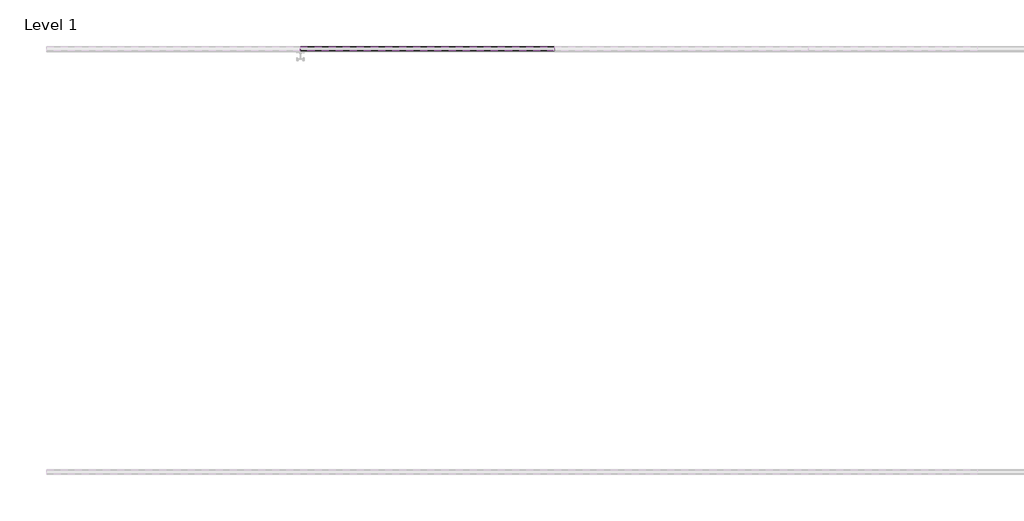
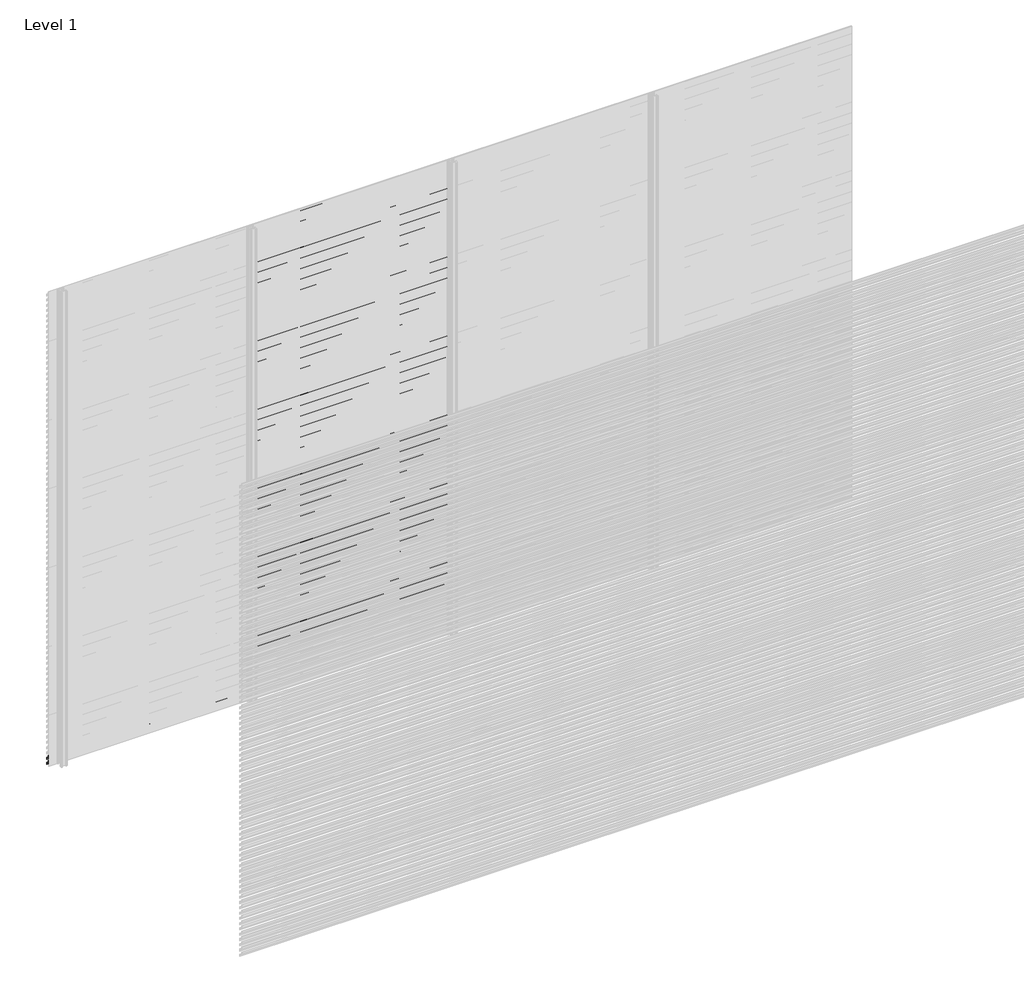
# One storey, part 32 of 507: 84 proxies.
"""IFC4 building model written with IfcOpenShell, lengths in millimetres."""

from ifc_helpers import new_model, si_unit, frame, origin, place, context, project, spatial, polyline, outline, extrude, element, save

model = new_model("IFC4")

# Units and contexts
model_context = context("Model", 3, world=origin())
ifc_project = project(units=[si_unit("LENGTHUNIT", "METRE", prefix="MILLI")], contexts=[model_context])

# Site, building, storey
site = spatial("IfcSite", under=ifc_project)
building = spatial("IfcBuilding", under=site)
storey = spatial("IfcBuildingStorey", under=building, Name="Level 1", Elevation=0.0)

# Proxies
placement = place(None, origin())
element("IfcBuildingElementProxy", 1, Name="Wall Sweeps", at=placement, inside=storey, context=model_context, shape_type="SweptSolid", body=[
    extrude(outline(polyline([(21503.4540136, 42.6), (21503.4540136, 29.1), (21502.2040136, 29.8216933), (21502.2040136, 41.8782281), (21483.0540136, 52.9345698), (21483.0540136, 66.6), (21484.3040136, 66.6), (21484.3040136, 53.6562577), (21503.4540136, 42.6)])), frame((44966.6208097, 0.0, 0.0), z_axis=(1.0, 0.0, 0.0), x_axis=(0.0, 1.0, 0.0)), (0.0, 0.0, 1.0), 1200.0000002),
])
element("IfcBuildingElementProxy", 2, Name="Wall Sweeps", at=placement, inside=storey, context=model_context, shape_type="SweptSolid", body=[
    extrude(outline(polyline([(21503.4540136, 9.3), (21503.4540136, -4.2), (21502.2040136, -3.4783067), (21502.2040136, 8.5782281), (21483.0540136, 19.6345698), (21483.0540136, 33.3), (21484.3040136, 33.3), (21484.3040136, 20.3562577), (21503.4540136, 9.3)])), frame((44966.6208097, 0.0, 0.0), z_axis=(1.0, 0.0, 0.0), x_axis=(0.0, 1.0, 0.0)), (0.0, 0.0, 1.0), 1200.0000002),
])
element("IfcBuildingElementProxy", 3, Name="Wall Sweeps", at=placement, inside=storey, context=model_context, shape_type="SweptSolid", body=[
    extrude(outline(polyline([(21503.4540136, 2973.0), (21503.4540136, 2959.5), (21502.2040136, 2960.2216933), (21502.2040136, 2972.2782281), (21483.0540136, 2983.3345698), (21483.0540136, 2997.0), (21484.3040136, 2997.0), (21484.3040136, 2984.0562577), (21503.4540136, 2973.0)])), frame((46166.6208099, 0.0, 0.0), z_axis=(1.0, 0.0, 0.0), x_axis=(0.0, 1.0, 0.0)), (0.0, 0.0, 1.0), 1199.9999999),
])
element("IfcBuildingElementProxy", 4, Name="Wall Sweeps", at=placement, inside=storey, context=model_context, shape_type="SweptSolid", body=[
    extrude(outline(polyline([(21503.4540136, 2939.7), (21503.4540136, 2926.2), (21502.2040136, 2926.9216933), (21502.2040136, 2938.9782281), (21483.0540136, 2950.0345698), (21483.0540136, 2963.7), (21484.3040136, 2963.7), (21484.3040136, 2950.7562577), (21503.4540136, 2939.7)])), frame((46166.6208099, 0.0, 0.0), z_axis=(1.0, 0.0, 0.0), x_axis=(0.0, 1.0, 0.0)), (0.0, 0.0, 1.0), 1199.9999999),
])
element("IfcBuildingElementProxy", 5, Name="Wall Sweeps", at=placement, inside=storey, context=model_context, shape_type="SweptSolid", body=[
    extrude(outline(polyline([(21503.4540136, 2906.4), (21503.4540136, 2892.9), (21502.2040136, 2893.6216933), (21502.2040136, 2905.6782281), (21483.0540136, 2916.7345698), (21483.0540136, 2930.4), (21484.3040136, 2930.4), (21484.3040136, 2917.4562577), (21503.4540136, 2906.4)])), frame((46166.6208099, 0.0, 0.0), z_axis=(1.0, 0.0, 0.0), x_axis=(0.0, 1.0, 0.0)), (0.0, 0.0, 1.0), 1199.9999999),
])
element("IfcBuildingElementProxy", 6, Name="Wall Sweeps", at=placement, inside=storey, context=model_context, shape_type="SweptSolid", body=[
    extrude(outline(polyline([(21503.4540136, 2873.1), (21503.4540136, 2859.6), (21502.2040136, 2860.3216933), (21502.2040136, 2872.3782281), (21483.0540136, 2883.4345698), (21483.0540136, 2897.1), (21484.3040136, 2897.1), (21484.3040136, 2884.1562577), (21503.4540136, 2873.1)])), frame((46166.6208099, 0.0, 0.0), z_axis=(1.0, 0.0, 0.0), x_axis=(0.0, 1.0, 0.0)), (0.0, 0.0, 1.0), 1199.9999999),
])
element("IfcBuildingElementProxy", 7, Name="Wall Sweeps", at=placement, inside=storey, context=model_context, shape_type="SweptSolid", body=[
    extrude(outline(polyline([(21503.4540136, 2839.8), (21503.4540136, 2826.3), (21502.2040136, 2827.0216933), (21502.2040136, 2839.0782281), (21483.0540136, 2850.1345698), (21483.0540136, 2863.8), (21484.3040136, 2863.8), (21484.3040136, 2850.8562577), (21503.4540136, 2839.8)])), frame((46166.6208099, 0.0, 0.0), z_axis=(1.0, 0.0, 0.0), x_axis=(0.0, 1.0, 0.0)), (0.0, 0.0, 1.0), 1199.9999999),
])
element("IfcBuildingElementProxy", 8, Name="Wall Sweeps", at=placement, inside=storey, context=model_context, shape_type="SweptSolid", body=[
    extrude(outline(polyline([(21503.4540136, 2806.5), (21503.4540136, 2793.0), (21502.2040136, 2793.7216933), (21502.2040136, 2805.7782281), (21483.0540136, 2816.8345698), (21483.0540136, 2830.5), (21484.3040136, 2830.5), (21484.3040136, 2817.5562577), (21503.4540136, 2806.5)])), frame((46166.6208099, 0.0, 0.0), z_axis=(1.0, 0.0, 0.0), x_axis=(0.0, 1.0, 0.0)), (0.0, 0.0, 1.0), 1199.9999999),
])
element("IfcBuildingElementProxy", 9, Name="Wall Sweeps", at=placement, inside=storey, context=model_context, shape_type="SweptSolid", body=[
    extrude(outline(polyline([(21503.4540136, 2773.2), (21503.4540136, 2759.7), (21502.2040136, 2760.4216933), (21502.2040136, 2772.4782281), (21483.0540136, 2783.5345698), (21483.0540136, 2797.2), (21484.3040136, 2797.2), (21484.3040136, 2784.2562577), (21503.4540136, 2773.2)])), frame((46166.6208099, 0.0, 0.0), z_axis=(1.0, 0.0, 0.0), x_axis=(0.0, 1.0, 0.0)), (0.0, 0.0, 1.0), 1199.9999999),
])
element("IfcBuildingElementProxy", 10, Name="Wall Sweeps", at=placement, inside=storey, context=model_context, shape_type="SweptSolid", body=[
    extrude(outline(polyline([(21503.4540136, 2739.9), (21503.4540136, 2726.4), (21502.2040136, 2727.1216933), (21502.2040136, 2739.1782281), (21483.0540136, 2750.2345698), (21483.0540136, 2763.9), (21484.3040136, 2763.9), (21484.3040136, 2750.9562577), (21503.4540136, 2739.9)])), frame((46166.6208099, 0.0, 0.0), z_axis=(1.0, 0.0, 0.0), x_axis=(0.0, 1.0, 0.0)), (0.0, 0.0, 1.0), 1199.9999999),
])
element("IfcBuildingElementProxy", 11, Name="Wall Sweeps", at=placement, inside=storey, context=model_context, shape_type="SweptSolid", body=[
    extrude(outline(polyline([(21503.4540136, 2706.6), (21503.4540136, 2693.1), (21502.2040136, 2693.8216933), (21502.2040136, 2705.8782281), (21483.0540136, 2716.9345698), (21483.0540136, 2730.6), (21484.3040136, 2730.6), (21484.3040136, 2717.6562577), (21503.4540136, 2706.6)])), frame((46166.6208099, 0.0, 0.0), z_axis=(1.0, 0.0, 0.0), x_axis=(0.0, 1.0, 0.0)), (0.0, 0.0, 1.0), 1199.9999999),
])
element("IfcBuildingElementProxy", 12, Name="Wall Sweeps", at=placement, inside=storey, context=model_context, shape_type="SweptSolid", body=[
    extrude(outline(polyline([(21503.4540136, 2673.3), (21503.4540136, 2659.8), (21502.2040136, 2660.5216933), (21502.2040136, 2672.5782281), (21483.0540136, 2683.6345698), (21483.0540136, 2697.3), (21484.3040136, 2697.3), (21484.3040136, 2684.3562577), (21503.4540136, 2673.3)])), frame((46166.6208099, 0.0, 0.0), z_axis=(1.0, 0.0, 0.0), x_axis=(0.0, 1.0, 0.0)), (0.0, 0.0, 1.0), 1199.9999999),
])
element("IfcBuildingElementProxy", 13, Name="Wall Sweeps", at=placement, inside=storey, context=model_context, shape_type="SweptSolid", body=[
    extrude(outline(polyline([(21503.4540136, 2640.0), (21503.4540136, 2626.5), (21502.2040136, 2627.2216933), (21502.2040136, 2639.2782281), (21483.0540136, 2650.3345698), (21483.0540136, 2664.0), (21484.3040136, 2664.0), (21484.3040136, 2651.0562577), (21503.4540136, 2640.0)])), frame((46166.6208099, 0.0, 0.0), z_axis=(1.0, 0.0, 0.0), x_axis=(0.0, 1.0, 0.0)), (0.0, 0.0, 1.0), 1199.9999999),
])
element("IfcBuildingElementProxy", 14, Name="Wall Sweeps", at=placement, inside=storey, context=model_context, shape_type="SweptSolid", body=[
    extrude(outline(polyline([(21503.4540136, 2606.7), (21503.4540136, 2593.2), (21502.2040136, 2593.9216933), (21502.2040136, 2605.9782281), (21483.0540136, 2617.0345698), (21483.0540136, 2630.7), (21484.3040136, 2630.7), (21484.3040136, 2617.7562577), (21503.4540136, 2606.7)])), frame((46166.6208099, 0.0, 0.0), z_axis=(1.0, 0.0, 0.0), x_axis=(0.0, 1.0, 0.0)), (0.0, 0.0, 1.0), 1199.9999999),
])
element("IfcBuildingElementProxy", 15, Name="Wall Sweeps", at=placement, inside=storey, context=model_context, shape_type="SweptSolid", body=[
    extrude(outline(polyline([(21503.4540136, 2573.4), (21503.4540136, 2559.9), (21502.2040136, 2560.6216933), (21502.2040136, 2572.6782281), (21483.0540136, 2583.7345698), (21483.0540136, 2597.4), (21484.3040136, 2597.4), (21484.3040136, 2584.4562577), (21503.4540136, 2573.4)])), frame((46166.6208099, 0.0, 0.0), z_axis=(1.0, 0.0, 0.0), x_axis=(0.0, 1.0, 0.0)), (0.0, 0.0, 1.0), 1199.9999999),
])
element("IfcBuildingElementProxy", 16, Name="Wall Sweeps", at=placement, inside=storey, context=model_context, shape_type="SweptSolid", body=[
    extrude(outline(polyline([(21503.4540136, 2540.1), (21503.4540136, 2526.6), (21502.2040136, 2527.3216933), (21502.2040136, 2539.3782281), (21483.0540136, 2550.4345698), (21483.0540136, 2564.1), (21484.3040136, 2564.1), (21484.3040136, 2551.1562577), (21503.4540136, 2540.1)])), frame((46166.6208099, 0.0, 0.0), z_axis=(1.0, 0.0, 0.0), x_axis=(0.0, 1.0, 0.0)), (0.0, 0.0, 1.0), 1199.9999999),
])
element("IfcBuildingElementProxy", 17, Name="Wall Sweeps", at=placement, inside=storey, context=model_context, shape_type="SweptSolid", body=[
    extrude(outline(polyline([(21503.4540136, 2506.8), (21503.4540136, 2493.3), (21502.2040136, 2494.0216933), (21502.2040136, 2506.0782281), (21483.0540136, 2517.1345698), (21483.0540136, 2530.8), (21484.3040136, 2530.8), (21484.3040136, 2517.8562577), (21503.4540136, 2506.8)])), frame((46166.6208099, 0.0, 0.0), z_axis=(1.0, 0.0, 0.0), x_axis=(0.0, 1.0, 0.0)), (0.0, 0.0, 1.0), 1199.9999999),
])
element("IfcBuildingElementProxy", 18, Name="Wall Sweeps", at=placement, inside=storey, context=model_context, shape_type="SweptSolid", body=[
    extrude(outline(polyline([(21503.4540136, 2473.5), (21503.4540136, 2460.0), (21502.2040136, 2460.7216933), (21502.2040136, 2472.7782281), (21483.0540136, 2483.8345698), (21483.0540136, 2497.5), (21484.3040136, 2497.5), (21484.3040136, 2484.5562577), (21503.4540136, 2473.5)])), frame((46166.6208099, 0.0, 0.0), z_axis=(1.0, 0.0, 0.0), x_axis=(0.0, 1.0, 0.0)), (0.0, 0.0, 1.0), 1199.9999999),
])
element("IfcBuildingElementProxy", 19, Name="Wall Sweeps", at=placement, inside=storey, context=model_context, shape_type="SweptSolid", body=[
    extrude(outline(polyline([(21503.4540136, 2440.2), (21503.4540136, 2426.7), (21502.2040136, 2427.4216933), (21502.2040136, 2439.4782281), (21483.0540136, 2450.5345698), (21483.0540136, 2464.2), (21484.3040136, 2464.2), (21484.3040136, 2451.2562577), (21503.4540136, 2440.2)])), frame((46166.6208099, 0.0, 0.0), z_axis=(1.0, 0.0, 0.0), x_axis=(0.0, 1.0, 0.0)), (0.0, 0.0, 1.0), 1199.9999999),
])
element("IfcBuildingElementProxy", 20, Name="Wall Sweeps", at=placement, inside=storey, context=model_context, shape_type="SweptSolid", body=[
    extrude(outline(polyline([(21503.4540136, 2406.9), (21503.4540136, 2393.4), (21502.2040136, 2394.1216933), (21502.2040136, 2406.1782281), (21483.0540136, 2417.2345698), (21483.0540136, 2430.9), (21484.3040136, 2430.9), (21484.3040136, 2417.9562577), (21503.4540136, 2406.9)])), frame((46166.6208099, 0.0, 0.0), z_axis=(1.0, 0.0, 0.0), x_axis=(0.0, 1.0, 0.0)), (0.0, 0.0, 1.0), 1199.9999999),
])
element("IfcBuildingElementProxy", 21, Name="Wall Sweeps", at=placement, inside=storey, context=model_context, shape_type="SweptSolid", body=[
    extrude(outline(polyline([(21503.4540136, 2373.6), (21503.4540136, 2360.1), (21502.2040136, 2360.8216933), (21502.2040136, 2372.8782281), (21483.0540136, 2383.9345698), (21483.0540136, 2397.6), (21484.3040136, 2397.6), (21484.3040136, 2384.6562577), (21503.4540136, 2373.6)])), frame((46166.6208099, 0.0, 0.0), z_axis=(1.0, 0.0, 0.0), x_axis=(0.0, 1.0, 0.0)), (0.0, 0.0, 1.0), 1199.9999999),
])
element("IfcBuildingElementProxy", 22, Name="Wall Sweeps", at=placement, inside=storey, context=model_context, shape_type="SweptSolid", body=[
    extrude(outline(polyline([(21503.4540136, 2340.3), (21503.4540136, 2326.8), (21502.2040136, 2327.5216933), (21502.2040136, 2339.5782281), (21483.0540136, 2350.6345698), (21483.0540136, 2364.3), (21484.3040136, 2364.3), (21484.3040136, 2351.3562577), (21503.4540136, 2340.3)])), frame((46166.6208099, 0.0, 0.0), z_axis=(1.0, 0.0, 0.0), x_axis=(0.0, 1.0, 0.0)), (0.0, 0.0, 1.0), 1199.9999999),
])
element("IfcBuildingElementProxy", 23, Name="Wall Sweeps", at=placement, inside=storey, context=model_context, shape_type="SweptSolid", body=[
    extrude(outline(polyline([(21503.4540136, 2307.0), (21503.4540136, 2293.5), (21502.2040136, 2294.2216933), (21502.2040136, 2306.2782281), (21483.0540136, 2317.3345698), (21483.0540136, 2331.0), (21484.3040136, 2331.0), (21484.3040136, 2318.0562577), (21503.4540136, 2307.0)])), frame((46166.6208099, 0.0, 0.0), z_axis=(1.0, 0.0, 0.0), x_axis=(0.0, 1.0, 0.0)), (0.0, 0.0, 1.0), 1199.9999999),
])
element("IfcBuildingElementProxy", 24, Name="Wall Sweeps", at=placement, inside=storey, context=model_context, shape_type="SweptSolid", body=[
    extrude(outline(polyline([(21503.4540136, 2273.7), (21503.4540136, 2260.2), (21502.2040136, 2260.9216933), (21502.2040136, 2272.9782281), (21483.0540136, 2284.0345698), (21483.0540136, 2297.7), (21484.3040136, 2297.7), (21484.3040136, 2284.7562577), (21503.4540136, 2273.7)])), frame((46166.6208099, 0.0, 0.0), z_axis=(1.0, 0.0, 0.0), x_axis=(0.0, 1.0, 0.0)), (0.0, 0.0, 1.0), 1199.9999999),
])
element("IfcBuildingElementProxy", 25, Name="Wall Sweeps", at=placement, inside=storey, context=model_context, shape_type="SweptSolid", body=[
    extrude(outline(polyline([(21503.4540136, 2240.4), (21503.4540136, 2226.9), (21502.2040136, 2227.6216933), (21502.2040136, 2239.6782281), (21483.0540136, 2250.7345698), (21483.0540136, 2264.4), (21484.3040136, 2264.4), (21484.3040136, 2251.4562577), (21503.4540136, 2240.4)])), frame((46166.6208099, 0.0, 0.0), z_axis=(1.0, 0.0, 0.0), x_axis=(0.0, 1.0, 0.0)), (0.0, 0.0, 1.0), 1199.9999999),
])
element("IfcBuildingElementProxy", 26, Name="Wall Sweeps", at=placement, inside=storey, context=model_context, shape_type="SweptSolid", body=[
    extrude(outline(polyline([(21503.4540136, 2207.1), (21503.4540136, 2193.6), (21502.2040136, 2194.3216933), (21502.2040136, 2206.3782281), (21483.0540136, 2217.4345698), (21483.0540136, 2231.1), (21484.3040136, 2231.1), (21484.3040136, 2218.1562577), (21503.4540136, 2207.1)])), frame((46166.6208099, 0.0, 0.0), z_axis=(1.0, 0.0, 0.0), x_axis=(0.0, 1.0, 0.0)), (0.0, 0.0, 1.0), 1199.9999999),
])
element("IfcBuildingElementProxy", 27, Name="Wall Sweeps", at=placement, inside=storey, context=model_context, shape_type="SweptSolid", body=[
    extrude(outline(polyline([(21503.4540136, 2173.8), (21503.4540136, 2160.3), (21502.2040136, 2161.0216933), (21502.2040136, 2173.0782281), (21483.0540136, 2184.1345698), (21483.0540136, 2197.8), (21484.3040136, 2197.8), (21484.3040136, 2184.8562577), (21503.4540136, 2173.8)])), frame((46166.6208099, 0.0, 0.0), z_axis=(1.0, 0.0, 0.0), x_axis=(0.0, 1.0, 0.0)), (0.0, 0.0, 1.0), 1199.9999999),
])
element("IfcBuildingElementProxy", 28, Name="Wall Sweeps", at=placement, inside=storey, context=model_context, shape_type="SweptSolid", body=[
    extrude(outline(polyline([(21503.4540136, 2140.5), (21503.4540136, 2127.0), (21502.2040136, 2127.7216933), (21502.2040136, 2139.7782281), (21483.0540136, 2150.8345698), (21483.0540136, 2164.5), (21484.3040136, 2164.5), (21484.3040136, 2151.5562577), (21503.4540136, 2140.5)])), frame((46166.6208099, 0.0, 0.0), z_axis=(1.0, 0.0, 0.0), x_axis=(0.0, 1.0, 0.0)), (0.0, 0.0, 1.0), 1199.9999999),
])
element("IfcBuildingElementProxy", 29, Name="Wall Sweeps", at=placement, inside=storey, context=model_context, shape_type="SweptSolid", body=[
    extrude(outline(polyline([(21503.4540136, 2107.2), (21503.4540136, 2093.7), (21502.2040136, 2094.4216933), (21502.2040136, 2106.4782281), (21483.0540136, 2117.5345698), (21483.0540136, 2131.2), (21484.3040136, 2131.2), (21484.3040136, 2118.2562577), (21503.4540136, 2107.2)])), frame((46166.6208099, 0.0, 0.0), z_axis=(1.0, 0.0, 0.0), x_axis=(0.0, 1.0, 0.0)), (0.0, 0.0, 1.0), 1199.9999999),
])
element("IfcBuildingElementProxy", 30, Name="Wall Sweeps", at=placement, inside=storey, context=model_context, shape_type="SweptSolid", body=[
    extrude(outline(polyline([(21503.4540136, 2073.9), (21503.4540136, 2060.4), (21502.2040136, 2061.1216933), (21502.2040136, 2073.1782281), (21483.0540136, 2084.2345698), (21483.0540136, 2097.9), (21484.3040136, 2097.9), (21484.3040136, 2084.9562577), (21503.4540136, 2073.9)])), frame((46166.6208099, 0.0, 0.0), z_axis=(1.0, 0.0, 0.0), x_axis=(0.0, 1.0, 0.0)), (0.0, 0.0, 1.0), 1199.9999999),
])
element("IfcBuildingElementProxy", 31, Name="Wall Sweeps", at=placement, inside=storey, context=model_context, shape_type="SweptSolid", body=[
    extrude(outline(polyline([(21503.4540136, 2040.6), (21503.4540136, 2027.1), (21502.2040136, 2027.8216933), (21502.2040136, 2039.8782281), (21483.0540136, 2050.9345698), (21483.0540136, 2064.6), (21484.3040136, 2064.6), (21484.3040136, 2051.6562577), (21503.4540136, 2040.6)])), frame((46166.6208099, 0.0, 0.0), z_axis=(1.0, 0.0, 0.0), x_axis=(0.0, 1.0, 0.0)), (0.0, 0.0, 1.0), 1199.9999999),
])
element("IfcBuildingElementProxy", 32, Name="Wall Sweeps", at=placement, inside=storey, context=model_context, shape_type="SweptSolid", body=[
    extrude(outline(polyline([(21503.4540136, 2007.3), (21503.4540136, 1993.8), (21502.2040136, 1994.5216933), (21502.2040136, 2006.5782281), (21483.0540136, 2017.6345698), (21483.0540136, 2031.3), (21484.3040136, 2031.3), (21484.3040136, 2018.3562577), (21503.4540136, 2007.3)])), frame((46166.6208099, 0.0, 0.0), z_axis=(1.0, 0.0, 0.0), x_axis=(0.0, 1.0, 0.0)), (0.0, 0.0, 1.0), 1199.9999999),
])
element("IfcBuildingElementProxy", 33, Name="Wall Sweeps", at=placement, inside=storey, context=model_context, shape_type="SweptSolid", body=[
    extrude(outline(polyline([(21503.4540136, 1974.0), (21503.4540136, 1960.5), (21502.2040136, 1961.2216933), (21502.2040136, 1973.2782281), (21483.0540136, 1984.3345698), (21483.0540136, 1998.0), (21484.3040136, 1998.0), (21484.3040136, 1985.0562577), (21503.4540136, 1974.0)])), frame((46166.6208099, 0.0, 0.0), z_axis=(1.0, 0.0, 0.0), x_axis=(0.0, 1.0, 0.0)), (0.0, 0.0, 1.0), 1199.9999999),
])
element("IfcBuildingElementProxy", 34, Name="Wall Sweeps", at=placement, inside=storey, context=model_context, shape_type="SweptSolid", body=[
    extrude(outline(polyline([(21503.4540136, 1940.7), (21503.4540136, 1927.2), (21502.2040136, 1927.9216933), (21502.2040136, 1939.9782281), (21483.0540136, 1951.0345698), (21483.0540136, 1964.7), (21484.3040136, 1964.7), (21484.3040136, 1951.7562577), (21503.4540136, 1940.7)])), frame((46166.6208099, 0.0, 0.0), z_axis=(1.0, 0.0, 0.0), x_axis=(0.0, 1.0, 0.0)), (0.0, 0.0, 1.0), 1199.9999999),
])
element("IfcBuildingElementProxy", 35, Name="Wall Sweeps", at=placement, inside=storey, context=model_context, shape_type="SweptSolid", body=[
    extrude(outline(polyline([(21503.4540136, 1907.4), (21503.4540136, 1893.9), (21502.2040136, 1894.6216933), (21502.2040136, 1906.6782281), (21483.0540136, 1917.7345698), (21483.0540136, 1931.4), (21484.3040136, 1931.4), (21484.3040136, 1918.4562577), (21503.4540136, 1907.4)])), frame((46166.6208099, 0.0, 0.0), z_axis=(1.0, 0.0, 0.0), x_axis=(0.0, 1.0, 0.0)), (0.0, 0.0, 1.0), 1199.9999999),
])
element("IfcBuildingElementProxy", 36, Name="Wall Sweeps", at=placement, inside=storey, context=model_context, shape_type="SweptSolid", body=[
    extrude(outline(polyline([(21503.4540136, 1874.1), (21503.4540136, 1860.6), (21502.2040136, 1861.3216933), (21502.2040136, 1873.3782281), (21483.0540136, 1884.4345698), (21483.0540136, 1898.1), (21484.3040136, 1898.1), (21484.3040136, 1885.1562577), (21503.4540136, 1874.1)])), frame((46166.6208099, 0.0, 0.0), z_axis=(1.0, 0.0, 0.0), x_axis=(0.0, 1.0, 0.0)), (0.0, 0.0, 1.0), 1199.9999999),
])
element("IfcBuildingElementProxy", 37, Name="Wall Sweeps", at=placement, inside=storey, context=model_context, shape_type="SweptSolid", body=[
    extrude(outline(polyline([(21503.4540136, 1840.8), (21503.4540136, 1827.3), (21502.2040136, 1828.0216933), (21502.2040136, 1840.0782281), (21483.0540136, 1851.1345698), (21483.0540136, 1864.8), (21484.3040136, 1864.8), (21484.3040136, 1851.8562577), (21503.4540136, 1840.8)])), frame((46166.6208099, 0.0, 0.0), z_axis=(1.0, 0.0, 0.0), x_axis=(0.0, 1.0, 0.0)), (0.0, 0.0, 1.0), 1199.9999999),
])
element("IfcBuildingElementProxy", 38, Name="Wall Sweeps", at=placement, inside=storey, context=model_context, shape_type="SweptSolid", body=[
    extrude(outline(polyline([(21503.4540136, 1807.5), (21503.4540136, 1794.0), (21502.2040136, 1794.7216933), (21502.2040136, 1806.7782281), (21483.0540136, 1817.8345698), (21483.0540136, 1831.5), (21484.3040136, 1831.5), (21484.3040136, 1818.5562577), (21503.4540136, 1807.5)])), frame((46166.6208099, 0.0, 0.0), z_axis=(1.0, 0.0, 0.0), x_axis=(0.0, 1.0, 0.0)), (0.0, 0.0, 1.0), 1199.9999999),
])
element("IfcBuildingElementProxy", 39, Name="Wall Sweeps", at=placement, inside=storey, context=model_context, shape_type="SweptSolid", body=[
    extrude(outline(polyline([(21503.4540136, 1774.2), (21503.4540136, 1760.7), (21502.2040136, 1761.4216933), (21502.2040136, 1773.4782281), (21483.0540136, 1784.5345698), (21483.0540136, 1798.2), (21484.3040136, 1798.2), (21484.3040136, 1785.2562577), (21503.4540136, 1774.2)])), frame((46166.6208099, 0.0, 0.0), z_axis=(1.0, 0.0, 0.0), x_axis=(0.0, 1.0, 0.0)), (0.0, 0.0, 1.0), 1199.9999999),
])
element("IfcBuildingElementProxy", 40, Name="Wall Sweeps", at=placement, inside=storey, context=model_context, shape_type="SweptSolid", body=[
    extrude(outline(polyline([(21503.4540136, 1740.9), (21503.4540136, 1727.4), (21502.2040136, 1728.1216933), (21502.2040136, 1740.1782281), (21483.0540136, 1751.2345698), (21483.0540136, 1764.9), (21484.3040136, 1764.9), (21484.3040136, 1751.9562577), (21503.4540136, 1740.9)])), frame((46166.6208099, 0.0, 0.0), z_axis=(1.0, 0.0, 0.0), x_axis=(0.0, 1.0, 0.0)), (0.0, 0.0, 1.0), 1199.9999999),
])
element("IfcBuildingElementProxy", 41, Name="Wall Sweeps", at=placement, inside=storey, context=model_context, shape_type="SweptSolid", body=[
    extrude(outline(polyline([(21503.4540136, 1707.6), (21503.4540136, 1694.1), (21502.2040136, 1694.8216933), (21502.2040136, 1706.8782281), (21483.0540136, 1717.9345698), (21483.0540136, 1731.6), (21484.3040136, 1731.6), (21484.3040136, 1718.6562577), (21503.4540136, 1707.6)])), frame((46166.6208099, 0.0, 0.0), z_axis=(1.0, 0.0, 0.0), x_axis=(0.0, 1.0, 0.0)), (0.0, 0.0, 1.0), 1199.9999999),
])
element("IfcBuildingElementProxy", 42, Name="Wall Sweeps", at=placement, inside=storey, context=model_context, shape_type="SweptSolid", body=[
    extrude(outline(polyline([(21503.4540136, 1674.3), (21503.4540136, 1660.8), (21502.2040136, 1661.5216933), (21502.2040136, 1673.5782281), (21483.0540136, 1684.6345698), (21483.0540136, 1698.3), (21484.3040136, 1698.3), (21484.3040136, 1685.3562577), (21503.4540136, 1674.3)])), frame((46166.6208099, 0.0, 0.0), z_axis=(1.0, 0.0, 0.0), x_axis=(0.0, 1.0, 0.0)), (0.0, 0.0, 1.0), 1199.9999999),
])
element("IfcBuildingElementProxy", 43, Name="Wall Sweeps", at=placement, inside=storey, context=model_context, shape_type="SweptSolid", body=[
    extrude(outline(polyline([(21503.4540136, 1641.0), (21503.4540136, 1627.5), (21502.2040136, 1628.2216933), (21502.2040136, 1640.2782281), (21483.0540136, 1651.3345698), (21483.0540136, 1665.0), (21484.3040136, 1665.0), (21484.3040136, 1652.0562577), (21503.4540136, 1641.0)])), frame((46166.6208099, 0.0, 0.0), z_axis=(1.0, 0.0, 0.0), x_axis=(0.0, 1.0, 0.0)), (0.0, 0.0, 1.0), 1199.9999999),
])
element("IfcBuildingElementProxy", 44, Name="Wall Sweeps", at=placement, inside=storey, context=model_context, shape_type="SweptSolid", body=[
    extrude(outline(polyline([(21503.4540136, 1607.7), (21503.4540136, 1594.2), (21502.2040136, 1594.9216933), (21502.2040136, 1606.9782281), (21483.0540136, 1618.0345698), (21483.0540136, 1631.7), (21484.3040136, 1631.7), (21484.3040136, 1618.7562577), (21503.4540136, 1607.7)])), frame((46166.6208099, 0.0, 0.0), z_axis=(1.0, 0.0, 0.0), x_axis=(0.0, 1.0, 0.0)), (0.0, 0.0, 1.0), 1199.9999999),
])
element("IfcBuildingElementProxy", 45, Name="Wall Sweeps", at=placement, inside=storey, context=model_context, shape_type="SweptSolid", body=[
    extrude(outline(polyline([(21503.4540136, 1574.4), (21503.4540136, 1560.9), (21502.2040136, 1561.6216933), (21502.2040136, 1573.6782281), (21483.0540136, 1584.7345698), (21483.0540136, 1598.4), (21484.3040136, 1598.4), (21484.3040136, 1585.4562577), (21503.4540136, 1574.4)])), frame((46166.6208099, 0.0, 0.0), z_axis=(1.0, 0.0, 0.0), x_axis=(0.0, 1.0, 0.0)), (0.0, 0.0, 1.0), 1199.9999999),
])
element("IfcBuildingElementProxy", 46, Name="Wall Sweeps", at=placement, inside=storey, context=model_context, shape_type="SweptSolid", body=[
    extrude(outline(polyline([(21503.4540136, 1541.1), (21503.4540136, 1527.6), (21502.2040136, 1528.3216933), (21502.2040136, 1540.3782281), (21483.0540136, 1551.4345698), (21483.0540136, 1565.1), (21484.3040136, 1565.1), (21484.3040136, 1552.1562577), (21503.4540136, 1541.1)])), frame((46166.6208099, 0.0, 0.0), z_axis=(1.0, 0.0, 0.0), x_axis=(0.0, 1.0, 0.0)), (0.0, 0.0, 1.0), 1199.9999999),
])
element("IfcBuildingElementProxy", 47, Name="Wall Sweeps", at=placement, inside=storey, context=model_context, shape_type="SweptSolid", body=[
    extrude(outline(polyline([(21503.4540136, 1507.8), (21503.4540136, 1494.3), (21502.2040136, 1495.0216933), (21502.2040136, 1507.0782281), (21483.0540136, 1518.1345698), (21483.0540136, 1531.8), (21484.3040136, 1531.8), (21484.3040136, 1518.8562577), (21503.4540136, 1507.8)])), frame((46166.6208099, 0.0, 0.0), z_axis=(1.0, 0.0, 0.0), x_axis=(0.0, 1.0, 0.0)), (0.0, 0.0, 1.0), 1199.9999999),
])
element("IfcBuildingElementProxy", 48, Name="Wall Sweeps", at=placement, inside=storey, context=model_context, shape_type="SweptSolid", body=[
    extrude(outline(polyline([(21503.4540136, 1474.5), (21503.4540136, 1461.0), (21502.2040136, 1461.7216933), (21502.2040136, 1473.7782281), (21483.0540136, 1484.8345698), (21483.0540136, 1498.5), (21484.3040136, 1498.5), (21484.3040136, 1485.5562577), (21503.4540136, 1474.5)])), frame((46166.6208099, 0.0, 0.0), z_axis=(1.0, 0.0, 0.0), x_axis=(0.0, 1.0, 0.0)), (0.0, 0.0, 1.0), 1199.9999999),
])
element("IfcBuildingElementProxy", 49, Name="Wall Sweeps", at=placement, inside=storey, context=model_context, shape_type="SweptSolid", body=[
    extrude(outline(polyline([(21503.4540136, 1441.2), (21503.4540136, 1427.7), (21502.2040136, 1428.4216933), (21502.2040136, 1440.4782281), (21483.0540136, 1451.5345698), (21483.0540136, 1465.2), (21484.3040136, 1465.2), (21484.3040136, 1452.2562577), (21503.4540136, 1441.2)])), frame((46166.6208099, 0.0, 0.0), z_axis=(1.0, 0.0, 0.0), x_axis=(0.0, 1.0, 0.0)), (0.0, 0.0, 1.0), 1199.9999999),
])
element("IfcBuildingElementProxy", 50, Name="Wall Sweeps", at=placement, inside=storey, context=model_context, shape_type="SweptSolid", body=[
    extrude(outline(polyline([(21503.4540136, 1407.9), (21503.4540136, 1394.4), (21502.2040136, 1395.1216933), (21502.2040136, 1407.1782281), (21483.0540136, 1418.2345698), (21483.0540136, 1431.9), (21484.3040136, 1431.9), (21484.3040136, 1418.9562577), (21503.4540136, 1407.9)])), frame((46166.6208099, 0.0, 0.0), z_axis=(1.0, 0.0, 0.0), x_axis=(0.0, 1.0, 0.0)), (0.0, 0.0, 1.0), 1199.9999999),
])
element("IfcBuildingElementProxy", 51, Name="Wall Sweeps", at=placement, inside=storey, context=model_context, shape_type="SweptSolid", body=[
    extrude(outline(polyline([(21503.4540136, 1374.6), (21503.4540136, 1361.1), (21502.2040136, 1361.8216933), (21502.2040136, 1373.8782281), (21483.0540136, 1384.9345698), (21483.0540136, 1398.6), (21484.3040136, 1398.6), (21484.3040136, 1385.6562577), (21503.4540136, 1374.6)])), frame((46166.6208099, 0.0, 0.0), z_axis=(1.0, 0.0, 0.0), x_axis=(0.0, 1.0, 0.0)), (0.0, 0.0, 1.0), 1199.9999999),
])
element("IfcBuildingElementProxy", 52, Name="Wall Sweeps", at=placement, inside=storey, context=model_context, shape_type="SweptSolid", body=[
    extrude(outline(polyline([(21503.4540136, 1341.3), (21503.4540136, 1327.8), (21502.2040136, 1328.5216933), (21502.2040136, 1340.5782281), (21483.0540136, 1351.6345698), (21483.0540136, 1365.3), (21484.3040136, 1365.3), (21484.3040136, 1352.3562577), (21503.4540136, 1341.3)])), frame((46166.6208099, 0.0, 0.0), z_axis=(1.0, 0.0, 0.0), x_axis=(0.0, 1.0, 0.0)), (0.0, 0.0, 1.0), 1199.9999999),
])
element("IfcBuildingElementProxy", 53, Name="Wall Sweeps", at=placement, inside=storey, context=model_context, shape_type="SweptSolid", body=[
    extrude(outline(polyline([(21503.4540136, 1308.0), (21503.4540136, 1294.5), (21502.2040136, 1295.2216933), (21502.2040136, 1307.2782281), (21483.0540136, 1318.3345698), (21483.0540136, 1332.0), (21484.3040136, 1332.0), (21484.3040136, 1319.0562577), (21503.4540136, 1308.0)])), frame((46166.6208099, 0.0, 0.0), z_axis=(1.0, 0.0, 0.0), x_axis=(0.0, 1.0, 0.0)), (0.0, 0.0, 1.0), 1199.9999999),
])
element("IfcBuildingElementProxy", 54, Name="Wall Sweeps", at=placement, inside=storey, context=model_context, shape_type="SweptSolid", body=[
    extrude(outline(polyline([(21503.4540136, 1274.7), (21503.4540136, 1261.2), (21502.2040136, 1261.9216933), (21502.2040136, 1273.9782281), (21483.0540136, 1285.0345698), (21483.0540136, 1298.7), (21484.3040136, 1298.7), (21484.3040136, 1285.7562577), (21503.4540136, 1274.7)])), frame((46166.6208099, 0.0, 0.0), z_axis=(1.0, 0.0, 0.0), x_axis=(0.0, 1.0, 0.0)), (0.0, 0.0, 1.0), 1199.9999999),
])
element("IfcBuildingElementProxy", 55, Name="Wall Sweeps", at=placement, inside=storey, context=model_context, shape_type="SweptSolid", body=[
    extrude(outline(polyline([(21503.4540136, 1241.4), (21503.4540136, 1227.9), (21502.2040136, 1228.6216933), (21502.2040136, 1240.6782281), (21483.0540136, 1251.7345698), (21483.0540136, 1265.4), (21484.3040136, 1265.4), (21484.3040136, 1252.4562577), (21503.4540136, 1241.4)])), frame((46166.6208099, 0.0, 0.0), z_axis=(1.0, 0.0, 0.0), x_axis=(0.0, 1.0, 0.0)), (0.0, 0.0, 1.0), 1199.9999999),
])
element("IfcBuildingElementProxy", 56, Name="Wall Sweeps", at=placement, inside=storey, context=model_context, shape_type="SweptSolid", body=[
    extrude(outline(polyline([(21503.4540136, 1208.1), (21503.4540136, 1194.6), (21502.2040136, 1195.3216933), (21502.2040136, 1207.3782281), (21483.0540136, 1218.4345698), (21483.0540136, 1232.1), (21484.3040136, 1232.1), (21484.3040136, 1219.1562577), (21503.4540136, 1208.1)])), frame((46166.6208099, 0.0, 0.0), z_axis=(1.0, 0.0, 0.0), x_axis=(0.0, 1.0, 0.0)), (0.0, 0.0, 1.0), 1199.9999999),
])
element("IfcBuildingElementProxy", 57, Name="Wall Sweeps", at=placement, inside=storey, context=model_context, shape_type="SweptSolid", body=[
    extrude(outline(polyline([(21503.4540136, 1174.8), (21503.4540136, 1161.3), (21502.2040136, 1162.0216933), (21502.2040136, 1174.0782281), (21483.0540136, 1185.1345698), (21483.0540136, 1198.8), (21484.3040136, 1198.8), (21484.3040136, 1185.8562577), (21503.4540136, 1174.8)])), frame((46166.6208099, 0.0, 0.0), z_axis=(1.0, 0.0, 0.0), x_axis=(0.0, 1.0, 0.0)), (0.0, 0.0, 1.0), 1199.9999999),
])
element("IfcBuildingElementProxy", 58, Name="Wall Sweeps", at=placement, inside=storey, context=model_context, shape_type="SweptSolid", body=[
    extrude(outline(polyline([(21503.4540136, 1141.5), (21503.4540136, 1128.0), (21502.2040136, 1128.7216933), (21502.2040136, 1140.7782281), (21483.0540136, 1151.8345698), (21483.0540136, 1165.5), (21484.3040136, 1165.5), (21484.3040136, 1152.5562577), (21503.4540136, 1141.5)])), frame((46166.6208099, 0.0, 0.0), z_axis=(1.0, 0.0, 0.0), x_axis=(0.0, 1.0, 0.0)), (0.0, 0.0, 1.0), 1199.9999999),
])
element("IfcBuildingElementProxy", 59, Name="Wall Sweeps", at=placement, inside=storey, context=model_context, shape_type="SweptSolid", body=[
    extrude(outline(polyline([(21503.4540136, 1108.2), (21503.4540136, 1094.7), (21502.2040136, 1095.4216933), (21502.2040136, 1107.4782281), (21483.0540136, 1118.5345698), (21483.0540136, 1132.2), (21484.3040136, 1132.2), (21484.3040136, 1119.2562577), (21503.4540136, 1108.2)])), frame((46166.6208099, 0.0, 0.0), z_axis=(1.0, 0.0, 0.0), x_axis=(0.0, 1.0, 0.0)), (0.0, 0.0, 1.0), 1199.9999999),
])
element("IfcBuildingElementProxy", 60, Name="Wall Sweeps", at=placement, inside=storey, context=model_context, shape_type="SweptSolid", body=[
    extrude(outline(polyline([(21503.4540136, 1074.9), (21503.4540136, 1061.4), (21502.2040136, 1062.1216933), (21502.2040136, 1074.1782281), (21483.0540136, 1085.2345698), (21483.0540136, 1098.9), (21484.3040136, 1098.9), (21484.3040136, 1085.9562577), (21503.4540136, 1074.9)])), frame((46166.6208099, 0.0, 0.0), z_axis=(1.0, 0.0, 0.0), x_axis=(0.0, 1.0, 0.0)), (0.0, 0.0, 1.0), 1199.9999999),
])
element("IfcBuildingElementProxy", 61, Name="Wall Sweeps", at=placement, inside=storey, context=model_context, shape_type="SweptSolid", body=[
    extrude(outline(polyline([(21503.4540136, 1041.6), (21503.4540136, 1028.1), (21502.2040136, 1028.8216933), (21502.2040136, 1040.8782281), (21483.0540136, 1051.9345698), (21483.0540136, 1065.6), (21484.3040136, 1065.6), (21484.3040136, 1052.6562577), (21503.4540136, 1041.6)])), frame((46166.6208099, 0.0, 0.0), z_axis=(1.0, 0.0, 0.0), x_axis=(0.0, 1.0, 0.0)), (0.0, 0.0, 1.0), 1199.9999999),
])
element("IfcBuildingElementProxy", 62, Name="Wall Sweeps", at=placement, inside=storey, context=model_context, shape_type="SweptSolid", body=[
    extrude(outline(polyline([(21503.4540136, 1008.3), (21503.4540136, 994.8), (21502.2040136, 995.5216933), (21502.2040136, 1007.5782281), (21483.0540136, 1018.6345698), (21483.0540136, 1032.3), (21484.3040136, 1032.3), (21484.3040136, 1019.3562577), (21503.4540136, 1008.3)])), frame((46166.6208099, 0.0, 0.0), z_axis=(1.0, 0.0, 0.0), x_axis=(0.0, 1.0, 0.0)), (0.0, 0.0, 1.0), 1199.9999999),
])
element("IfcBuildingElementProxy", 63, Name="Wall Sweeps", at=placement, inside=storey, context=model_context, shape_type="SweptSolid", body=[
    extrude(outline(polyline([(21503.4540136, 975.0), (21503.4540136, 961.5), (21502.2040136, 962.2216933), (21502.2040136, 974.2782281), (21483.0540136, 985.3345698), (21483.0540136, 999.0), (21484.3040136, 999.0), (21484.3040136, 986.0562577), (21503.4540136, 975.0)])), frame((46166.6208099, 0.0, 0.0), z_axis=(1.0, 0.0, 0.0), x_axis=(0.0, 1.0, 0.0)), (0.0, 0.0, 1.0), 1199.9999999),
])
element("IfcBuildingElementProxy", 64, Name="Wall Sweeps", at=placement, inside=storey, context=model_context, shape_type="SweptSolid", body=[
    extrude(outline(polyline([(21503.4540136, 941.7), (21503.4540136, 928.2), (21502.2040136, 928.9216933), (21502.2040136, 940.9782281), (21483.0540136, 952.0345698), (21483.0540136, 965.7), (21484.3040136, 965.7), (21484.3040136, 952.7562577), (21503.4540136, 941.7)])), frame((46166.6208099, 0.0, 0.0), z_axis=(1.0, 0.0, 0.0), x_axis=(0.0, 1.0, 0.0)), (0.0, 0.0, 1.0), 1199.9999999),
])
element("IfcBuildingElementProxy", 65, Name="Wall Sweeps", at=placement, inside=storey, context=model_context, shape_type="SweptSolid", body=[
    extrude(outline(polyline([(21503.4540136, 908.4), (21503.4540136, 894.9), (21502.2040136, 895.6216933), (21502.2040136, 907.6782281), (21483.0540136, 918.7345698), (21483.0540136, 932.4), (21484.3040136, 932.4), (21484.3040136, 919.4562577), (21503.4540136, 908.4)])), frame((46166.6208099, 0.0, 0.0), z_axis=(1.0, 0.0, 0.0), x_axis=(0.0, 1.0, 0.0)), (0.0, 0.0, 1.0), 1199.9999999),
])
element("IfcBuildingElementProxy", 66, Name="Wall Sweeps", at=placement, inside=storey, context=model_context, shape_type="SweptSolid", body=[
    extrude(outline(polyline([(21503.4540136, 875.1), (21503.4540136, 861.6), (21502.2040136, 862.3216933), (21502.2040136, 874.3782281), (21483.0540136, 885.4345698), (21483.0540136, 899.1), (21484.3040136, 899.1), (21484.3040136, 886.1562577), (21503.4540136, 875.1)])), frame((46166.6208099, 0.0, 0.0), z_axis=(1.0, 0.0, 0.0), x_axis=(0.0, 1.0, 0.0)), (0.0, 0.0, 1.0), 1199.9999999),
])
element("IfcBuildingElementProxy", 67, Name="Wall Sweeps", at=placement, inside=storey, context=model_context, shape_type="SweptSolid", body=[
    extrude(outline(polyline([(21503.4540136, 841.8), (21503.4540136, 828.3), (21502.2040136, 829.0216933), (21502.2040136, 841.0782281), (21483.0540136, 852.1345698), (21483.0540136, 865.8), (21484.3040136, 865.8), (21484.3040136, 852.8562577), (21503.4540136, 841.8)])), frame((46166.6208099, 0.0, 0.0), z_axis=(1.0, 0.0, 0.0), x_axis=(0.0, 1.0, 0.0)), (0.0, 0.0, 1.0), 1199.9999999),
])
element("IfcBuildingElementProxy", 68, Name="Wall Sweeps", at=placement, inside=storey, context=model_context, shape_type="SweptSolid", body=[
    extrude(outline(polyline([(21503.4540136, 808.5), (21503.4540136, 795.0), (21502.2040136, 795.7216933), (21502.2040136, 807.7782281), (21483.0540136, 818.8345698), (21483.0540136, 832.5), (21484.3040136, 832.5), (21484.3040136, 819.5562577), (21503.4540136, 808.5)])), frame((46166.6208099, 0.0, 0.0), z_axis=(1.0, 0.0, 0.0), x_axis=(0.0, 1.0, 0.0)), (0.0, 0.0, 1.0), 1199.9999999),
])
element("IfcBuildingElementProxy", 69, Name="Wall Sweeps", at=placement, inside=storey, context=model_context, shape_type="SweptSolid", body=[
    extrude(outline(polyline([(21503.4540136, 775.2), (21503.4540136, 761.7), (21502.2040136, 762.4216933), (21502.2040136, 774.4782281), (21483.0540136, 785.5345698), (21483.0540136, 799.2), (21484.3040136, 799.2), (21484.3040136, 786.2562577), (21503.4540136, 775.2)])), frame((46166.6208099, 0.0, 0.0), z_axis=(1.0, 0.0, 0.0), x_axis=(0.0, 1.0, 0.0)), (0.0, 0.0, 1.0), 1199.9999999),
])
element("IfcBuildingElementProxy", 70, Name="Wall Sweeps", at=placement, inside=storey, context=model_context, shape_type="SweptSolid", body=[
    extrude(outline(polyline([(21503.4540136, 741.9), (21503.4540136, 728.4), (21502.2040136, 729.1216933), (21502.2040136, 741.1782281), (21483.0540136, 752.2345698), (21483.0540136, 765.9), (21484.3040136, 765.9), (21484.3040136, 752.9562577), (21503.4540136, 741.9)])), frame((46166.6208099, 0.0, 0.0), z_axis=(1.0, 0.0, 0.0), x_axis=(0.0, 1.0, 0.0)), (0.0, 0.0, 1.0), 1199.9999999),
])
element("IfcBuildingElementProxy", 71, Name="Wall Sweeps", at=placement, inside=storey, context=model_context, shape_type="SweptSolid", body=[
    extrude(outline(polyline([(21503.4540136, 708.6), (21503.4540136, 695.1), (21502.2040136, 695.8216933), (21502.2040136, 707.8782281), (21483.0540136, 718.9345698), (21483.0540136, 732.6), (21484.3040136, 732.6), (21484.3040136, 719.6562577), (21503.4540136, 708.6)])), frame((46166.6208099, 0.0, 0.0), z_axis=(1.0, 0.0, 0.0), x_axis=(0.0, 1.0, 0.0)), (0.0, 0.0, 1.0), 1199.9999999),
])
element("IfcBuildingElementProxy", 72, Name="Wall Sweeps", at=placement, inside=storey, context=model_context, shape_type="SweptSolid", body=[
    extrude(outline(polyline([(21503.4540136, 675.3), (21503.4540136, 661.8), (21502.2040136, 662.5216933), (21502.2040136, 674.5782281), (21483.0540136, 685.6345698), (21483.0540136, 699.3), (21484.3040136, 699.3), (21484.3040136, 686.3562577), (21503.4540136, 675.3)])), frame((46166.6208099, 0.0, 0.0), z_axis=(1.0, 0.0, 0.0), x_axis=(0.0, 1.0, 0.0)), (0.0, 0.0, 1.0), 1199.9999999),
])
element("IfcBuildingElementProxy", 73, Name="Wall Sweeps", at=placement, inside=storey, context=model_context, shape_type="SweptSolid", body=[
    extrude(outline(polyline([(21503.4540136, 642.0), (21503.4540136, 628.5), (21502.2040136, 629.2216933), (21502.2040136, 641.2782281), (21483.0540136, 652.3345698), (21483.0540136, 666.0), (21484.3040136, 666.0), (21484.3040136, 653.0562577), (21503.4540136, 642.0)])), frame((46166.6208099, 0.0, 0.0), z_axis=(1.0, 0.0, 0.0), x_axis=(0.0, 1.0, 0.0)), (0.0, 0.0, 1.0), 1199.9999999),
])
element("IfcBuildingElementProxy", 74, Name="Wall Sweeps", at=placement, inside=storey, context=model_context, shape_type="SweptSolid", body=[
    extrude(outline(polyline([(21503.4540136, 608.7), (21503.4540136, 595.2), (21502.2040136, 595.9216933), (21502.2040136, 607.9782281), (21483.0540136, 619.0345698), (21483.0540136, 632.7), (21484.3040136, 632.7), (21484.3040136, 619.7562577), (21503.4540136, 608.7)])), frame((46166.6208099, 0.0, 0.0), z_axis=(1.0, 0.0, 0.0), x_axis=(0.0, 1.0, 0.0)), (0.0, 0.0, 1.0), 1199.9999999),
])
element("IfcBuildingElementProxy", 75, Name="Wall Sweeps", at=placement, inside=storey, context=model_context, shape_type="SweptSolid", body=[
    extrude(outline(polyline([(21503.4540136, 575.4), (21503.4540136, 561.9), (21502.2040136, 562.6216933), (21502.2040136, 574.6782281), (21483.0540136, 585.7345698), (21483.0540136, 599.4), (21484.3040136, 599.4), (21484.3040136, 586.4562577), (21503.4540136, 575.4)])), frame((46166.6208099, 0.0, 0.0), z_axis=(1.0, 0.0, 0.0), x_axis=(0.0, 1.0, 0.0)), (0.0, 0.0, 1.0), 1199.9999999),
])
element("IfcBuildingElementProxy", 76, Name="Wall Sweeps", at=placement, inside=storey, context=model_context, shape_type="SweptSolid", body=[
    extrude(outline(polyline([(21503.4540136, 542.1), (21503.4540136, 528.6), (21502.2040136, 529.3216933), (21502.2040136, 541.3782281), (21483.0540136, 552.4345698), (21483.0540136, 566.1), (21484.3040136, 566.1), (21484.3040136, 553.1562577), (21503.4540136, 542.1)])), frame((46166.6208099, 0.0, 0.0), z_axis=(1.0, 0.0, 0.0), x_axis=(0.0, 1.0, 0.0)), (0.0, 0.0, 1.0), 1199.9999999),
])
element("IfcBuildingElementProxy", 77, Name="Wall Sweeps", at=placement, inside=storey, context=model_context, shape_type="SweptSolid", body=[
    extrude(outline(polyline([(21503.4540136, 508.8), (21503.4540136, 495.3), (21502.2040136, 496.0216933), (21502.2040136, 508.0782281), (21483.0540136, 519.1345698), (21483.0540136, 532.8), (21484.3040136, 532.8), (21484.3040136, 519.8562577), (21503.4540136, 508.8)])), frame((46166.6208099, 0.0, 0.0), z_axis=(1.0, 0.0, 0.0), x_axis=(0.0, 1.0, 0.0)), (0.0, 0.0, 1.0), 1199.9999999),
])
element("IfcBuildingElementProxy", 78, Name="Wall Sweeps", at=placement, inside=storey, context=model_context, shape_type="SweptSolid", body=[
    extrude(outline(polyline([(21503.4540136, 475.5), (21503.4540136, 462.0), (21502.2040136, 462.7216933), (21502.2040136, 474.7782281), (21483.0540136, 485.8345698), (21483.0540136, 499.5), (21484.3040136, 499.5), (21484.3040136, 486.5562577), (21503.4540136, 475.5)])), frame((46166.6208099, 0.0, 0.0), z_axis=(1.0, 0.0, 0.0), x_axis=(0.0, 1.0, 0.0)), (0.0, 0.0, 1.0), 1199.9999999),
])
element("IfcBuildingElementProxy", 79, Name="Wall Sweeps", at=placement, inside=storey, context=model_context, shape_type="SweptSolid", body=[
    extrude(outline(polyline([(21503.4540136, 442.2), (21503.4540136, 428.7), (21502.2040136, 429.4216933), (21502.2040136, 441.4782281), (21483.0540136, 452.5345698), (21483.0540136, 466.2), (21484.3040136, 466.2), (21484.3040136, 453.2562577), (21503.4540136, 442.2)])), frame((46166.6208099, 0.0, 0.0), z_axis=(1.0, 0.0, 0.0), x_axis=(0.0, 1.0, 0.0)), (0.0, 0.0, 1.0), 1199.9999999),
])
element("IfcBuildingElementProxy", 80, Name="Wall Sweeps", at=placement, inside=storey, context=model_context, shape_type="SweptSolid", body=[
    extrude(outline(polyline([(21503.4540136, 408.9), (21503.4540136, 395.4), (21502.2040136, 396.1216933), (21502.2040136, 408.1782281), (21483.0540136, 419.2345698), (21483.0540136, 432.9), (21484.3040136, 432.9), (21484.3040136, 419.9562577), (21503.4540136, 408.9)])), frame((46166.6208099, 0.0, 0.0), z_axis=(1.0, 0.0, 0.0), x_axis=(0.0, 1.0, 0.0)), (0.0, 0.0, 1.0), 1199.9999999),
])
element("IfcBuildingElementProxy", 81, Name="Wall Sweeps", at=placement, inside=storey, context=model_context, shape_type="SweptSolid", body=[
    extrude(outline(polyline([(21503.4540136, 375.6), (21503.4540136, 362.1), (21502.2040136, 362.8216933), (21502.2040136, 374.8782281), (21483.0540136, 385.9345698), (21483.0540136, 399.6), (21484.3040136, 399.6), (21484.3040136, 386.6562577), (21503.4540136, 375.6)])), frame((46166.6208099, 0.0, 0.0), z_axis=(1.0, 0.0, 0.0), x_axis=(0.0, 1.0, 0.0)), (0.0, 0.0, 1.0), 1199.9999999),
])
element("IfcBuildingElementProxy", 82, Name="Wall Sweeps", at=placement, inside=storey, context=model_context, shape_type="SweptSolid", body=[
    extrude(outline(polyline([(21503.4540136, 342.3), (21503.4540136, 328.8), (21502.2040136, 329.5216933), (21502.2040136, 341.5782281), (21483.0540136, 352.6345698), (21483.0540136, 366.3), (21484.3040136, 366.3), (21484.3040136, 353.3562577), (21503.4540136, 342.3)])), frame((46166.6208099, 0.0, 0.0), z_axis=(1.0, 0.0, 0.0), x_axis=(0.0, 1.0, 0.0)), (0.0, 0.0, 1.0), 1199.9999999),
])
element("IfcBuildingElementProxy", 83, Name="Wall Sweeps", at=placement, inside=storey, context=model_context, shape_type="SweptSolid", body=[
    extrude(outline(polyline([(21503.4540136, 309.0), (21503.4540136, 295.5), (21502.2040136, 296.2216933), (21502.2040136, 308.2782281), (21483.0540136, 319.3345698), (21483.0540136, 333.0), (21484.3040136, 333.0), (21484.3040136, 320.0562577), (21503.4540136, 309.0)])), frame((46166.6208099, 0.0, 0.0), z_axis=(1.0, 0.0, 0.0), x_axis=(0.0, 1.0, 0.0)), (0.0, 0.0, 1.0), 1199.9999999),
])
element("IfcBuildingElementProxy", 84, Name="Wall Sweeps", at=placement, inside=storey, context=model_context, shape_type="SweptSolid", body=[
    extrude(outline(polyline([(21503.4540136, 275.7), (21503.4540136, 262.2), (21502.2040136, 262.9216933), (21502.2040136, 274.9782281), (21483.0540136, 286.0345698), (21483.0540136, 299.7), (21484.3040136, 299.7), (21484.3040136, 286.7562577), (21503.4540136, 275.7)])), frame((46166.6208099, 0.0, 0.0), z_axis=(1.0, 0.0, 0.0), x_axis=(0.0, 1.0, 0.0)), (0.0, 0.0, 1.0), 1199.9999999),
])

save(model, "model.ifc")
